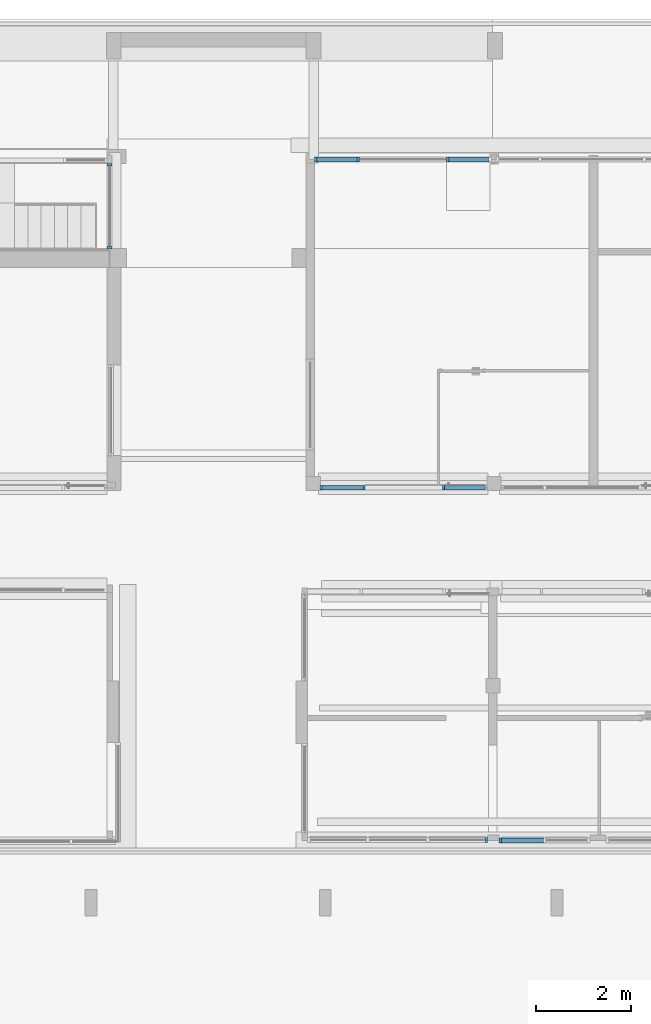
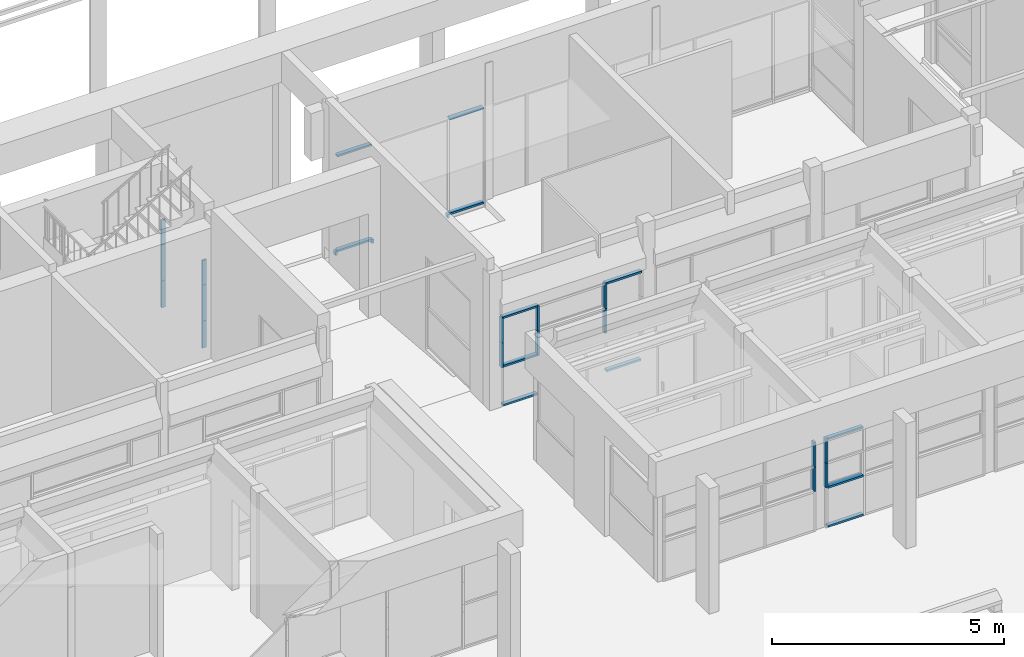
# One storey, part 22 of 117: 31 members, 5 elements without a shape of their own.
"""IFC4 building model written with IfcOpenShell, lengths in metres."""

from ifc_helpers import new_model, entity, si_unit, converted_unit, derived_unit, direction, frame, origin, place, context, subcontext, project, spatial, indexed_curve, outline, extrude, source, transform, mapped, material, type_object, type_shapes, element, aggregate, save


model = new_model("IFC4")

# Units and contexts
model_context = context("Model", 3, precision=1e-05, world=origin(), true_north=direction((6.123031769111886e-17, 1.0)))
body_context = subcontext(model_context, "Body", "Model", "MODEL_VIEW")
ifc_project = project(units=[si_unit("LENGTHUNIT", "METRE"), si_unit("AREAUNIT", "SQUARE_METRE"), si_unit("VOLUMEUNIT", "CUBIC_METRE"), converted_unit("PLANEANGLEUNIT", "DEGREE", entity("IfcRatioMeasure", 0.017453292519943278), si_unit("PLANEANGLEUNIT", "RADIAN"), dimensions=[0, 0, 0, 0, 0, 0, 0]), si_unit("MASSUNIT", "GRAM", prefix="KILO"), derived_unit("MASSDENSITYUNIT", [(si_unit("MASSUNIT", "GRAM", prefix="KILO"), 1), (si_unit("LENGTHUNIT", "METRE"), -3)]), derived_unit("MOMENTOFINERTIAUNIT", [(si_unit("LENGTHUNIT", "METRE"), 4)]), si_unit("TIMEUNIT", "SECOND"), si_unit("FREQUENCYUNIT", "HERTZ"), si_unit("THERMODYNAMICTEMPERATUREUNIT", "DEGREE_CELSIUS"), derived_unit("THERMALTRANSMITTANCEUNIT", [(si_unit("MASSUNIT", "GRAM", prefix="KILO"), 1), (si_unit("THERMODYNAMICTEMPERATUREUNIT", "KELVIN"), -1), (si_unit("TIMEUNIT", "SECOND"), -3)]), derived_unit("VOLUMETRICFLOWRATEUNIT", [(si_unit("LENGTHUNIT", "METRE"), 3), (si_unit("TIMEUNIT", "SECOND"), -1)]), derived_unit("MASSFLOWRATEUNIT", [(si_unit("MASSUNIT", "GRAM", prefix="KILO"), 1), (si_unit("TIMEUNIT", "SECOND"), -1)]), derived_unit("ROTATIONALFREQUENCYUNIT", [(si_unit("TIMEUNIT", "SECOND"), -1)]), si_unit("ELECTRICCURRENTUNIT", "AMPERE"), si_unit("ELECTRICVOLTAGEUNIT", "VOLT"), si_unit("POWERUNIT", "WATT"), si_unit("FORCEUNIT", "NEWTON", prefix="KILO"), si_unit("ILLUMINANCEUNIT", "LUX"), si_unit("LUMINOUSFLUXUNIT", "LUMEN"), si_unit("LUMINOUSINTENSITYUNIT", "CANDELA"), derived_unit("USERDEFINED", [(si_unit("MASSUNIT", "GRAM", prefix="KILO"), -1), (si_unit("LENGTHUNIT", "METRE"), -2), (si_unit("TIMEUNIT", "SECOND"), 3), (si_unit("LUMINOUSFLUXUNIT", "LUMEN"), 1)]), derived_unit("SOUNDPOWERUNIT", [(si_unit("MASSUNIT", "GRAM", prefix="KILO"), 1), (si_unit("LENGTHUNIT", "METRE"), 2), (si_unit("TIMEUNIT", "SECOND"), -3)]), derived_unit("SOUNDPRESSUREUNIT", [(si_unit("MASSUNIT", "GRAM", prefix="KILO"), 1), (si_unit("LENGTHUNIT", "METRE"), -1), (si_unit("TIMEUNIT", "SECOND"), -2)]), derived_unit("LINEARVELOCITYUNIT", [(si_unit("LENGTHUNIT", "METRE"), 1), (si_unit("TIMEUNIT", "SECOND"), -1)]), si_unit("PRESSUREUNIT", "PASCAL"), derived_unit("USERDEFINED", [(si_unit("LENGTHUNIT", "METRE"), -2), (si_unit("MASSUNIT", "GRAM", prefix="KILO"), 1), (si_unit("TIMEUNIT", "SECOND"), -2)]), derived_unit("LINEARFORCEUNIT", [(si_unit("MASSUNIT", "GRAM", prefix="KILO"), 1), (si_unit("LENGTHUNIT", "METRE"), 1), (si_unit("TIMEUNIT", "SECOND"), -2), (si_unit("LENGTHUNIT", "METRE"), -1)]), derived_unit("PLANARFORCEUNIT", [(si_unit("MASSUNIT", "GRAM", prefix="KILO"), 1), (si_unit("LENGTHUNIT", "METRE"), 1), (si_unit("TIMEUNIT", "SECOND"), -2), (si_unit("LENGTHUNIT", "METRE"), -2)])], contexts=[model_context])

# Site, building, storey
site_placement = place(None, origin())
site = spatial("IfcSite", under=ifc_project, at=site_placement, Name="Superficie", CompositionType="ELEMENT")
building_placement = place(site_placement, origin())
building = spatial("IfcBuilding", under=site, at=building_placement, CompositionType="ELEMENT")
storey_placement = place(building_placement, origin())
storey = spatial("IfcBuildingStorey", under=building, at=storey_placement, Name="Nivel 0", CompositionType="ELEMENT", Elevation=0.0)

# Curtain wall, members
curtain_wall_type = type_object("IfcCurtainWallType", Name="Muro cortina:Muro cortina - simple", PredefinedType="NOTDEFINED")
curtain_wall_1_placement = place(storey_placement, origin())
curtain_wall_1 = element("IfcCurtainWall", 1, at=curtain_wall_1_placement, inside=storey, type_object=curtain_wall_type, Name="Muro cortina:Muro cortina - simple", ObjectType="Muro cortina:Muro cortina - simple", PredefinedType="NOTDEFINED")
ifc_material = material(Name="<Unnamed>")
member_type_1 = type_object("IfcMemberType", Name="Montante rectangular:Montante rectangular - 5 x 10 cm", PredefinedType="MULLION", material=ifc_material)
shared_shape_1 = source(origin(), body_context, "Body", "SweptSolid", [
    extrude(outline(indexed_curve([(-0.05, -0.025), (0.05, -0.025), (0.05, 0.025), (-0.05, 0.025), (-0.05, -0.025)], self_intersect=False)), frame((-0.025, 0.0, -0.8500000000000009), z_axis=(0.0, 0.0, 1.0), x_axis=(0.0, -1.0, 0.0)), (0.0, 0.0, 1.0), 0.849999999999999),
])
type_shapes(member_type_1, [shared_shape_1])
member_1_placement = place(curtain_wall_1_placement, frame((3.7765520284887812, 12.65454840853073, 2.44), z_axis=(-1.0, 0.0, 0.0), x_axis=(0.0, 0.0, 1.0)))
member_1 = element("IfcMember", 2, at=member_1_placement, type_object=member_type_1, material=ifc_material, Name="Montante rectangular:Montante rectangular - 5 x 10 cm", ObjectType="Montante rectangular:Montante rectangular - 5 x 10 cm", PredefinedType="MULLION", context=body_context, shape_type="MappedRepresentation", body=[
    mapped(shared_shape_1, transform((0.0, 0.0, 0.0), scale=1.0)),
])
member_2_placement = place(curtain_wall_1_placement, frame((0.9865520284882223, 12.654548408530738, 2.44), z_axis=(-1.0, 0.0, 0.0), x_axis=(0.0, 0.0, 1.0)))
member_2 = element("IfcMember", 3, at=member_2_placement, type_object=member_type_1, material=ifc_material, Name="Montante rectangular:Montante rectangular - 5 x 10 cm", ObjectType="Montante rectangular:Montante rectangular - 5 x 10 cm", PredefinedType="MULLION", context=body_context, shape_type="MappedRepresentation", body=[
    mapped(shared_shape_1, transform((0.0, 0.0, 0.0), scale=1.0)),
])

curtain_wall_2_placement = place(storey_placement, origin())
curtain_wall_2 = element("IfcCurtainWall", 4, at=curtain_wall_2_placement, inside=storey, type_object=curtain_wall_type, Name="Muro cortina:Muro cortina - simple", ObjectType="Muro cortina:Muro cortina - simple", PredefinedType="NOTDEFINED")
member_type_2 = type_object("IfcMemberType", Name="Montante rectangular:Montante rectangular - 5 x 10 cm", PredefinedType="MULLION", material=ifc_material)
shared_shape_2 = source(origin(), body_context, "Body", "SweptSolid", [
    extrude(outline(indexed_curve([(-0.05, -0.025), (0.05, -0.025), (0.05, 0.025), (-0.05, 0.025), (-0.05, -0.025)], self_intersect=False)), frame((0.0, 0.0, -0.8500000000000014), z_axis=(0.0, 0.0, 1.0), x_axis=(0.0, -1.0, 0.0)), (0.0, 0.0, 1.0), 0.849999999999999),
])
type_shapes(member_type_2, [shared_shape_2])
member_3_placement = place(curtain_wall_2_placement, frame((1.956552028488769, 5.716739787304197, 0.019999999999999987), z_axis=(1.0, 0.0, 0.0), x_axis=(0.0, 0.0, 1.0)))
member_3 = element("IfcMember", 5, at=member_3_placement, type_object=member_type_2, material=ifc_material, Name="Montante rectangular:Montante rectangular - 5 x 10 cm", ObjectType="Montante rectangular:Montante rectangular - 5 x 10 cm", PredefinedType="MULLION", context=body_context, shape_type="MappedRepresentation", body=[
    mapped(shared_shape_2, transform((0.0, 0.0, 0.0), scale=1.0)),
])
member_4_placement = place(curtain_wall_2_placement, frame((4.53655202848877, 5.7167397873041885, 0.019999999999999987), z_axis=(1.0, 0.0, 0.0), x_axis=(0.0, 0.0, 1.0)))
member_4 = element("IfcMember", 6, at=member_4_placement, type_object=member_type_2, material=ifc_material, Name="Montante rectangular:Montante rectangular - 5 x 10 cm", ObjectType="Montante rectangular:Montante rectangular - 5 x 10 cm", PredefinedType="MULLION", context=body_context, shape_type="MappedRepresentation", body=[
    mapped(shared_shape_2, transform((0.0, 0.0, 0.0), scale=1.0)),
])

# Member
member_5_placement = place(curtain_wall_1_placement, frame((3.7765520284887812, 12.65454840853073, -0.08647709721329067), z_axis=(-1.0, 0.0, 0.0), x_axis=(0.0, 0.0, 1.0)))
member_5 = element("IfcMember", 7, at=member_5_placement, type_object=member_type_2, material=ifc_material, Name="Montante rectangular:Montante rectangular - 5 x 10 cm", ObjectType="Montante rectangular:Montante rectangular - 5 x 10 cm", PredefinedType="MULLION", context=body_context, shape_type="MappedRepresentation", body=[
    mapped(shared_shape_2, transform((0.0, 0.0, 0.0), scale=1.0)),
])

member_6_placement = place(curtain_wall_1_placement, frame((0.9865520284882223, 12.654548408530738, -0.08647709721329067), z_axis=(-1.0, 0.0, 0.0), x_axis=(0.0, 0.0, 1.0)))
member_6 = element("IfcMember", 8, at=member_6_placement, type_object=member_type_2, material=ifc_material, Name="Montante rectangular:Montante rectangular - 5 x 10 cm", ObjectType="Montante rectangular:Montante rectangular - 5 x 10 cm", PredefinedType="MULLION", context=body_context, shape_type="MappedRepresentation", body=[
    mapped(shared_shape_2, transform((0.0, 0.0, 0.0), scale=1.0)),
])

member_type_3 = type_object("IfcMemberType", Name="Montante rectangular:Montante rectangular - 5 x 10 cm", PredefinedType="MULLION", material=ifc_material)
shared_shape_3 = source(origin(), body_context, "Body", "SweptSolid", [
    extrude(outline(indexed_curve([(-0.05, -0.025), (0.05, -0.025), (0.05, 0.025), (-0.05, 0.025), (-0.05, -0.025)], self_intersect=False)), frame((0.0, 0.0, -0.8500000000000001), z_axis=(0.0, 0.0, 1.0), x_axis=(0.0, -1.0, 0.0)), (0.0, 0.0, 1.0), 0.8500000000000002),
])
type_shapes(member_type_3, [shared_shape_3])
member_7_placement = place(curtain_wall_2_placement, frame((1.956552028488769, 5.716739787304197, 1.0450000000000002), z_axis=(1.0, 0.0, 0.0), x_axis=(0.0, 0.0, 1.0)))
member_7 = element("IfcMember", 9, at=member_7_placement, type_object=member_type_3, material=ifc_material, Name="Montante rectangular:Montante rectangular - 5 x 10 cm", ObjectType="Montante rectangular:Montante rectangular - 5 x 10 cm", PredefinedType="MULLION", context=body_context, shape_type="MappedRepresentation", body=[
    mapped(shared_shape_3, transform((0.0, 0.0, 0.0), scale=1.0)),
])

member_type_4 = type_object("IfcMemberType", Name="Montante rectangular:Montante rectangular - 5 x 10 cm", PredefinedType="MULLION", material=ifc_material)
shared_shape_4 = source(origin(), body_context, "Body", "SweptSolid", [
    extrude(outline(indexed_curve([(-0.05, -0.025), (0.05, -0.025), (0.05, 0.025), (-0.05, 0.025), (-0.05, -0.025)], self_intersect=False)), frame((-0.025, 0.0, -0.9000000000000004), z_axis=(0.0, 0.0, 1.0), x_axis=(0.0, -1.0, 0.0)), (0.0, 0.0, 1.0), 0.9),
])
type_shapes(member_type_4, [shared_shape_4])
member_8_placement = place(curtain_wall_2_placement, frame((4.56155202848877, 5.7167397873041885, 2.35), z_axis=(1.0, 0.0, 0.0), x_axis=(0.0, 0.0, 1.0)))
member_8 = element("IfcMember", 10, at=member_8_placement, type_object=member_type_4, material=ifc_material, Name="Montante rectangular:Montante rectangular - 5 x 10 cm", ObjectType="Montante rectangular:Montante rectangular - 5 x 10 cm", PredefinedType="MULLION", context=body_context, shape_type="MappedRepresentation", body=[
    mapped(shared_shape_4, transform((0.0, 0.0, 0.0), scale=1.0)),
])

member_type_5 = type_object("IfcMemberType", Name="Montante rectangular:Montante rectangular - 5 x 10 cm", PredefinedType="MULLION", material=ifc_material)
shared_shape_5 = source(origin(), body_context, "Body", "SweptSolid", [
    extrude(outline(indexed_curve([(-0.05, -0.025), (0.05, -0.025), (0.05, 0.025), (-0.05, 0.025), (-0.05, -0.025)], self_intersect=False)), frame((-0.025, 0.0, -0.8999999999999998), z_axis=(0.0, 0.0, 1.0), x_axis=(0.0, -1.0, 0.0)), (0.0, 0.0, 1.0), 0.8999999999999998),
])
type_shapes(member_type_5, [shared_shape_5])
member_9_placement = place(curtain_wall_2_placement, frame((1.9815520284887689, 5.716739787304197, 2.35), z_axis=(1.0, 0.0, 0.0), x_axis=(0.0, 0.0, 1.0)))
member_9 = element("IfcMember", 11, at=member_9_placement, type_object=member_type_5, material=ifc_material, Name="Montante rectangular:Montante rectangular - 5 x 10 cm", ObjectType="Montante rectangular:Montante rectangular - 5 x 10 cm", PredefinedType="MULLION", context=body_context, shape_type="MappedRepresentation", body=[
    mapped(shared_shape_5, transform((0.0, 0.0, 0.0), scale=1.0)),
])

member_type_6 = type_object("IfcMemberType", Name="Montante rectangular:Montante rectangular - 5 x 10 cm", PredefinedType="MULLION", material=ifc_material)
shared_shape_6 = source(origin(), body_context, "Body", "SweptSolid", [
    extrude(outline(indexed_curve([(-0.05, -0.025), (0.05, -0.025), (0.05, 0.025), (-0.05, 0.025), (-0.05, -0.025)], self_intersect=False)), frame((0.0, 0.0, -0.655), z_axis=(0.0, 0.0, 1.0), x_axis=(0.0, -1.0, 0.0)), (0.0, 0.0, 1.0), 0.655),
])
type_shapes(member_type_6, [shared_shape_6])
member_10_placement = place(curtain_wall_2_placement, frame((1.081552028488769, 5.7167397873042, 1.0199999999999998), z_axis=(0.0, 0.0, -1.0), x_axis=(1.0, 0.0, 0.0)))
member_10 = element("IfcMember", 12, at=member_10_placement, type_object=member_type_6, material=ifc_material, Name="Montante rectangular:Montante rectangular - 5 x 10 cm", ObjectType="Montante rectangular:Montante rectangular - 5 x 10 cm", PredefinedType="MULLION", context=body_context, shape_type="MappedRepresentation", body=[
    mapped(shared_shape_6, transform((0.0, 0.0, 0.0), scale=1.0)),
])

member_type_7 = type_object("IfcMemberType", Name="Montante rectangular:Montante rectangular - 5 x 10 cm", PredefinedType="MULLION", material=ifc_material)
shared_shape_7 = source(origin(), body_context, "Body", "SweptSolid", [
    extrude(outline(indexed_curve([(-0.05, -0.025), (0.05, -0.025), (0.05, 0.025), (-0.05, 0.025), (-0.05, -0.025)], self_intersect=False)), frame((0.0, 0.0, -0.655), z_axis=(0.0, 0.0, 1.0), x_axis=(0.0, -1.0, 0.0)), (0.0, 0.0, 1.0), 0.655),
])
type_shapes(member_type_7, [shared_shape_7])
member_11_placement = place(curtain_wall_2_placement, frame((1.9815520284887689, 5.716739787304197, 1.0199999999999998), z_axis=(0.0, 0.0, -1.0), x_axis=(1.0, 0.0, 0.0)))
member_11 = element("IfcMember", 13, at=member_11_placement, type_object=member_type_7, material=ifc_material, Name="Montante rectangular:Montante rectangular - 5 x 10 cm", ObjectType="Montante rectangular:Montante rectangular - 5 x 10 cm", PredefinedType="MULLION", context=body_context, shape_type="MappedRepresentation", body=[
    mapped(shared_shape_7, transform((0.0, 0.0, 0.0), scale=1.0)),
])

member_12_placement = place(curtain_wall_2_placement, frame((3.66155202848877, 5.716739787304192, 1.0199999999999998), z_axis=(0.0, 0.0, -1.0), x_axis=(1.0, 0.0, 0.0)))
member_12 = element("IfcMember", 14, at=member_12_placement, type_object=member_type_7, material=ifc_material, Name="Montante rectangular:Montante rectangular - 5 x 10 cm", ObjectType="Montante rectangular:Montante rectangular - 5 x 10 cm", PredefinedType="MULLION", context=body_context, shape_type="MappedRepresentation", body=[
    mapped(shared_shape_7, transform((0.0, 0.0, 0.0), scale=1.0)),
])

member_type_8 = type_object("IfcMemberType", Name="Montante rectangular:Montante rectangular - 5 x 10 cm", PredefinedType="MULLION", material=ifc_material)
shared_shape_8 = source(origin(), body_context, "Body", "SweptSolid", [
    extrude(outline(indexed_curve([(-0.05, -0.025), (0.05, -0.025), (0.05, 0.025), (-0.05, 0.025), (-0.05, -0.025)], self_intersect=False)), frame((0.0, 0.0, -0.655), z_axis=(0.0, 0.0, 1.0), x_axis=(0.0, -1.0, 0.0)), (0.0, 0.0, 1.0), 0.655),
])
type_shapes(member_type_8, [shared_shape_8])
member_13_placement = place(curtain_wall_2_placement, frame((1.081552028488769, 5.7167397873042, 1.6749999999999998), z_axis=(0.0, 0.0, -1.0), x_axis=(1.0, 0.0, 0.0)))
member_13 = element("IfcMember", 15, at=member_13_placement, type_object=member_type_8, material=ifc_material, Name="Montante rectangular:Montante rectangular - 5 x 10 cm", ObjectType="Montante rectangular:Montante rectangular - 5 x 10 cm", PredefinedType="MULLION", context=body_context, shape_type="MappedRepresentation", body=[
    mapped(shared_shape_8, transform((0.0, 0.0, 0.0), scale=1.0)),
])

member_type_9 = type_object("IfcMemberType", Name="Montante rectangular:Montante rectangular - 5 x 10 cm", PredefinedType="MULLION", material=ifc_material)
shared_shape_9 = source(origin(), body_context, "Body", "SweptSolid", [
    extrude(outline(indexed_curve([(-0.05, -0.025), (0.05, -0.025), (0.05, 0.025), (-0.05, 0.025), (-0.05, -0.025)], self_intersect=False)), frame((0.0, 0.0, -0.655), z_axis=(0.0, 0.0, 1.0), x_axis=(0.0, -1.0, 0.0)), (0.0, 0.0, 1.0), 0.655),
])
type_shapes(member_type_9, [shared_shape_9])
member_14_placement = place(curtain_wall_2_placement, frame((1.9815520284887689, 5.716739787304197, 1.6749999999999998), z_axis=(0.0, 0.0, -1.0), x_axis=(1.0, 0.0, 0.0)))
member_14 = element("IfcMember", 16, at=member_14_placement, type_object=member_type_9, material=ifc_material, Name="Montante rectangular:Montante rectangular - 5 x 10 cm", ObjectType="Montante rectangular:Montante rectangular - 5 x 10 cm", PredefinedType="MULLION", context=body_context, shape_type="MappedRepresentation", body=[
    mapped(shared_shape_9, transform((0.0, 0.0, 0.0), scale=1.0)),
])

member_15_placement = place(curtain_wall_2_placement, frame((3.66155202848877, 5.716739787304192, 1.6749999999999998), z_axis=(0.0, 0.0, -1.0), x_axis=(1.0, 0.0, 0.0)))
member_15 = element("IfcMember", 17, at=member_15_placement, type_object=member_type_9, material=ifc_material, Name="Montante rectangular:Montante rectangular - 5 x 10 cm", ObjectType="Montante rectangular:Montante rectangular - 5 x 10 cm", PredefinedType="MULLION", context=body_context, shape_type="MappedRepresentation", body=[
    mapped(shared_shape_9, transform((0.0, 0.0, 0.0), scale=1.0)),
])

aggregate(curtain_wall_2, [member_7, member_8, member_3, member_4, member_9, member_10, member_11, member_12, member_13, member_14, member_15])

# Curtain wall, members
curtain_wall_3_placement = place(storey_placement, origin())
curtain_wall_3 = element("IfcCurtainWall", 18, at=curtain_wall_3_placement, inside=storey, type_object=curtain_wall_type, Name="Muro cortina:Muro cortina - simple", ObjectType="Muro cortina:Muro cortina - simple", PredefinedType="NOTDEFINED")
member_type_10 = type_object("IfcMemberType", Name="Montante rectangular:Montante rectangular - 5 x 10 cm", PredefinedType="MULLION", material=ifc_material)
shared_shape_10 = source(origin(), body_context, "Body", "SweptSolid", [
    extrude(outline(indexed_curve([(-0.05, -0.025), (0.05, -0.025), (0.05, 0.025), (-0.05, 0.025), (-0.05, -0.025)], self_intersect=False)), frame((0.0, 0.0, -0.65), z_axis=(0.0, 0.0, 1.0), x_axis=(0.0, -1.0, 0.0)), (0.0, 0.0, 1.0), 0.65),
])
type_shapes(member_type_10, [shared_shape_10])
member_16_placement = place(curtain_wall_3_placement, frame((-3.3932009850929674, 10.790829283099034, 1.6799999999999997), z_axis=(0.0, 0.0, -1.0), x_axis=(0.0, 1.0, 0.0)))
member_16 = element("IfcMember", 19, at=member_16_placement, type_object=member_type_10, material=ifc_material, Name="Montante rectangular:Montante rectangular - 5 x 10 cm", ObjectType="Montante rectangular:Montante rectangular - 5 x 10 cm", PredefinedType="MULLION", context=body_context, shape_type="MappedRepresentation", body=[
    mapped(shared_shape_10, transform((0.0, 0.0, 0.0), scale=1.0)),
])
member_type_11 = type_object("IfcMemberType", Name="Montante rectangular:Montante rectangular - 5 x 10 cm", PredefinedType="MULLION", material=ifc_material)
shared_shape_11 = source(origin(), body_context, "Body", "SweptSolid", [
    extrude(outline(indexed_curve([(-0.05, -0.025), (0.05, -0.025), (0.05, 0.025), (-0.05, 0.025), (-0.05, -0.025)], self_intersect=False)), frame((-0.025, 0.0, -0.65), z_axis=(0.0, 0.0, 1.0), x_axis=(0.0, -1.0, 0.0)), (0.0, 0.0, 1.0), 0.65),
])
type_shapes(member_type_11, [shared_shape_11])
member_17_placement = place(curtain_wall_3_placement, frame((-3.393200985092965, 12.570829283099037, 1.6799999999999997), z_axis=(0.0, 0.0, -1.0), x_axis=(0.0, 1.0, 0.0)))
member_17 = element("IfcMember", 20, at=member_17_placement, type_object=member_type_11, material=ifc_material, Name="Montante rectangular:Montante rectangular - 5 x 10 cm", ObjectType="Montante rectangular:Montante rectangular - 5 x 10 cm", PredefinedType="MULLION", context=body_context, shape_type="MappedRepresentation", body=[
    mapped(shared_shape_11, transform((0.0, 0.0, 0.0), scale=1.0)),
])
member_type_12 = type_object("IfcMemberType", Name="Montante rectangular:Montante rectangular - 5 x 10 cm", PredefinedType="MULLION", material=ifc_material)
shared_shape_12 = source(origin(), body_context, "Body", "SweptSolid", [
    extrude(outline(indexed_curve([(-0.05, -0.025), (0.05, -0.025), (0.05, 0.025), (-0.05, 0.025), (-0.05, -0.025)], self_intersect=False)), frame((0.0, 0.0, -0.95), z_axis=(0.0, 0.0, 1.0), x_axis=(0.0, -1.0, 0.0)), (0.0, 0.0, 1.0), 0.95),
])
type_shapes(member_type_12, [shared_shape_12])
member_18_placement = place(curtain_wall_3_placement, frame((-3.3932009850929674, 10.790829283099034, 0.73), z_axis=(0.0, 0.0, -1.0), x_axis=(0.0, 1.0, 0.0)))
member_18 = element("IfcMember", 21, at=member_18_placement, type_object=member_type_12, material=ifc_material, Name="Montante rectangular:Montante rectangular - 5 x 10 cm", ObjectType="Montante rectangular:Montante rectangular - 5 x 10 cm", PredefinedType="MULLION", context=body_context, shape_type="MappedRepresentation", body=[
    mapped(shared_shape_12, transform((0.0, 0.0, 0.0), scale=1.0)),
])
member_type_13 = type_object("IfcMemberType", Name="Montante rectangular:Montante rectangular - 5 x 10 cm", PredefinedType="MULLION", material=ifc_material)
shared_shape_13 = source(origin(), body_context, "Body", "SweptSolid", [
    extrude(outline(indexed_curve([(-0.05, -0.025), (0.05, -0.025), (0.05, 0.025), (-0.05, 0.025), (-0.05, -0.025)], self_intersect=False)), frame((0.0, 0.0, -0.71), z_axis=(0.0, 0.0, 1.0), x_axis=(0.0, -1.0, 0.0)), (0.0, 0.0, 1.0), 0.71),
])
type_shapes(member_type_13, [shared_shape_13])
member_19_placement = place(curtain_wall_3_placement, frame((-3.3932009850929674, 10.790829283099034, 0.019999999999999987), z_axis=(0.0, 0.0, -1.0), x_axis=(0.0, 1.0, 0.0)))
member_19 = element("IfcMember", 22, at=member_19_placement, type_object=member_type_13, material=ifc_material, Name="Montante rectangular:Montante rectangular - 5 x 10 cm", ObjectType="Montante rectangular:Montante rectangular - 5 x 10 cm", PredefinedType="MULLION", context=body_context, shape_type="MappedRepresentation", body=[
    mapped(shared_shape_13, transform((0.0, 0.0, 0.0), scale=1.0)),
])
member_type_14 = type_object("IfcMemberType", Name="Montante rectangular:Montante rectangular - 5 x 10 cm", PredefinedType="MULLION", material=ifc_material)
shared_shape_14 = source(origin(), body_context, "Body", "SweptSolid", [
    extrude(outline(indexed_curve([(-0.05, -0.025), (0.05, -0.025), (0.05, 0.025), (-0.05, 0.025), (-0.05, -0.025)], self_intersect=False)), frame((-0.025, 0.0, -0.71), z_axis=(0.0, 0.0, 1.0), x_axis=(0.0, -1.0, 0.0)), (0.0, 0.0, 1.0), 0.71),
])
type_shapes(member_type_14, [shared_shape_14])
member_20_placement = place(curtain_wall_3_placement, frame((-3.393200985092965, 12.570829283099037, 0.019999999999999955), z_axis=(0.0, 0.0, -1.0), x_axis=(0.0, 1.0, 0.0)))
member_20 = element("IfcMember", 23, at=member_20_placement, type_object=member_type_14, material=ifc_material, Name="Montante rectangular:Montante rectangular - 5 x 10 cm", ObjectType="Montante rectangular:Montante rectangular - 5 x 10 cm", PredefinedType="MULLION", context=body_context, shape_type="MappedRepresentation", body=[
    mapped(shared_shape_14, transform((0.0, 0.0, 0.0), scale=1.0)),
])
member_type_15 = type_object("IfcMemberType", Name="Montante rectangular:Montante rectangular - 5 x 10 cm", PredefinedType="MULLION", material=ifc_material)
shared_shape_15 = source(origin(), body_context, "Body", "SweptSolid", [
    extrude(outline(indexed_curve([(-0.05, -0.025), (0.05, -0.025), (0.05, 0.025), (-0.05, 0.025), (-0.05, -0.025)], self_intersect=False)), frame((-0.025, 0.0, -0.9499999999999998), z_axis=(0.0, 0.0, 1.0), x_axis=(0.0, -1.0, 0.0)), (0.0, 0.0, 1.0), 0.9499999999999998),
])
type_shapes(member_type_15, [shared_shape_15])
member_21_placement = place(curtain_wall_3_placement, frame((-3.393200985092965, 12.570829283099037, 0.73), z_axis=(0.0, 0.0, -1.0), x_axis=(0.0, 1.0, 0.0)))
member_21 = element("IfcMember", 24, at=member_21_placement, type_object=member_type_15, material=ifc_material, Name="Montante rectangular:Montante rectangular - 5 x 10 cm", ObjectType="Montante rectangular:Montante rectangular - 5 x 10 cm", PredefinedType="MULLION", context=body_context, shape_type="MappedRepresentation", body=[
    mapped(shared_shape_15, transform((0.0, 0.0, 0.0), scale=1.0)),
])
aggregate(curtain_wall_3, [member_19, member_20, member_16, member_17, member_18, member_21])

# Curtain wall, member
curtain_wall_4_placement = place(storey_placement, origin())
curtain_wall_4 = element("IfcCurtainWall", 25, at=curtain_wall_4_placement, inside=storey, type_object=curtain_wall_type, Name="Muro cortina:Muro cortina - simple", ObjectType="Muro cortina:Muro cortina - simple", PredefinedType="NOTDEFINED")
member_type_16 = type_object("IfcMemberType", Name="Montante rectangular:Montante rectangular - 5 x 10 cm", PredefinedType="MULLION", material=ifc_material)
shared_shape_16 = source(origin(), body_context, "Body", "SweptSolid", [
    extrude(outline(indexed_curve([(-0.05, -0.025), (0.05, -0.025), (0.05, 0.025), (-0.05, 0.025), (-0.05, -0.025)], self_intersect=False)), frame((-0.025, 0.0, -0.6500000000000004), z_axis=(0.0, 0.0, 1.0), x_axis=(0.0, -1.0, 0.0)), (0.0, 0.0, 1.0), 0.6500000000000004),
])
type_shapes(member_type_16, [shared_shape_16])
member_22_placement = place(curtain_wall_4_placement, frame((4.596799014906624, -1.7241707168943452, 2.35)))
member_22 = element("IfcMember", 26, at=member_22_placement, type_object=member_type_16, material=ifc_material, Name="Montante rectangular:Montante rectangular - 5 x 10 cm", ObjectType="Montante rectangular:Montante rectangular - 5 x 10 cm", PredefinedType="MULLION", context=body_context, shape_type="MappedRepresentation", body=[
    mapped(shared_shape_16, transform((0.0, 0.0, 0.0), scale=1.0)),
])

curtain_wall_5_placement = place(storey_placement, origin())
curtain_wall_5 = element("IfcCurtainWall", 27, at=curtain_wall_5_placement, inside=storey, type_object=curtain_wall_type, Name="Muro cortina:Muro cortina - simple", ObjectType="Muro cortina:Muro cortina - simple", PredefinedType="NOTDEFINED")
member_23_placement = place(curtain_wall_5_placement, frame((4.8367990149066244, -1.7341707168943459, 2.35), z_axis=(0.0, 0.0, 1.0), x_axis=(-1.0, 0.0, 0.0)))
member_23 = element("IfcMember", 28, at=member_23_placement, type_object=member_type_16, material=ifc_material, Name="Montante rectangular:Montante rectangular - 5 x 10 cm", ObjectType="Montante rectangular:Montante rectangular - 5 x 10 cm", PredefinedType="MULLION", context=body_context, shape_type="MappedRepresentation", body=[
    mapped(shared_shape_16, transform((0.0, 0.0, 0.0), scale=1.0)),
])

# Member
member_type_17 = type_object("IfcMemberType", Name="Montante rectangular:Montante rectangular - 5 x 10 cm", PredefinedType="MULLION", material=ifc_material)
shared_shape_17 = source(origin(), body_context, "Body", "SweptSolid", [
    extrude(outline(indexed_curve([(-0.05, -0.025), (0.05, -0.025), (0.05, 0.025), (-0.05, 0.025), (-0.05, -0.025)], self_intersect=False)), frame((-0.025, 0.0, -0.6499999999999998), z_axis=(0.0, 0.0, 1.0), x_axis=(0.0, -1.0, 0.0)), (0.0, 0.0, 1.0), 0.6499999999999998),
])
type_shapes(member_type_17, [shared_shape_17])
member_24_placement = place(curtain_wall_4_placement, frame((4.596799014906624, -1.7241707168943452, 1.7)))
member_24 = element("IfcMember", 29, at=member_24_placement, type_object=member_type_17, material=ifc_material, Name="Montante rectangular:Montante rectangular - 5 x 10 cm", ObjectType="Montante rectangular:Montante rectangular - 5 x 10 cm", PredefinedType="MULLION", context=body_context, shape_type="MappedRepresentation", body=[
    mapped(shared_shape_17, transform((0.0, 0.0, 0.0), scale=1.0)),
])

aggregate(curtain_wall_4, [member_22, member_24])

member_25_placement = place(curtain_wall_5_placement, frame((4.8367990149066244, -1.7341707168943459, 1.7), z_axis=(0.0, 0.0, 1.0), x_axis=(-1.0, 0.0, 0.0)))
member_25 = element("IfcMember", 30, at=member_25_placement, type_object=member_type_17, material=ifc_material, Name="Montante rectangular:Montante rectangular - 5 x 10 cm", ObjectType="Montante rectangular:Montante rectangular - 5 x 10 cm", PredefinedType="MULLION", context=body_context, shape_type="MappedRepresentation", body=[
    mapped(shared_shape_17, transform((0.0, 0.0, 0.0), scale=1.0)),
])

member_type_18 = type_object("IfcMemberType", Name="Montante rectangular:Montante rectangular - 5 x 10 cm", PredefinedType="MULLION", material=ifc_material)
shared_shape_18 = source(origin(), body_context, "Body", "SweptSolid", [
    extrude(outline(indexed_curve([(-0.05, -0.025), (0.05, -0.025), (0.05, 0.025), (-0.05, 0.025), (-0.05, -0.025)], self_intersect=False)), frame((-0.025, 0.0, -0.885), z_axis=(0.0, 0.0, 1.0), x_axis=(0.0, -1.0, 0.0)), (0.0, 0.0, 1.0), 0.8849999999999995),
])
type_shapes(member_type_18, [shared_shape_18])
member_26_placement = place(curtain_wall_5_placement, frame((5.771799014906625, -1.7341707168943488, 2.3499999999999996), z_axis=(1.0, 0.0, 0.0), x_axis=(0.0, 0.0, 1.0)))
member_26 = element("IfcMember", 31, at=member_26_placement, type_object=member_type_18, material=ifc_material, Name="Montante rectangular:Montante rectangular - 5 x 10 cm", ObjectType="Montante rectangular:Montante rectangular - 5 x 10 cm", PredefinedType="MULLION", context=body_context, shape_type="MappedRepresentation", body=[
    mapped(shared_shape_18, transform((0.0, 0.0, 0.0), scale=1.0)),
])

member_type_19 = type_object("IfcMemberType", Name="Montante rectangular:Montante rectangular - 5 x 10 cm", PredefinedType="MULLION", material=ifc_material)
shared_shape_19 = source(origin(), body_context, "Body", "SweptSolid", [
    extrude(outline(indexed_curve([(-0.05, -0.025), (0.05, -0.025), (0.05, 0.025), (-0.05, 0.025), (-0.05, -0.025)], self_intersect=False)), frame((-0.025, 0.0, -0.885), z_axis=(0.0, 0.0, 1.0), x_axis=(0.0, -1.0, 0.0)), (0.0, 0.0, 1.0), 0.8850000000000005),
])
type_shapes(member_type_19, [shared_shape_19])
member_27_placement = place(curtain_wall_5_placement, frame((4.886799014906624, -1.734170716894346, 0.0), z_axis=(-1.0, 0.0, 0.0), x_axis=(0.0, 0.0, -1.0)))
member_27 = element("IfcMember", 32, at=member_27_placement, type_object=member_type_19, material=ifc_material, Name="Montante rectangular:Montante rectangular - 5 x 10 cm", ObjectType="Montante rectangular:Montante rectangular - 5 x 10 cm", PredefinedType="MULLION", context=body_context, shape_type="MappedRepresentation", body=[
    mapped(shared_shape_19, transform((0.0, 0.0, 0.0), scale=1.0)),
])

member_type_20 = type_object("IfcMemberType", Name="Montante rectangular:Montante rectangular - 5 x 10 cm", PredefinedType="MULLION", material=ifc_material)
shared_shape_20 = source(origin(), body_context, "Body", "SweptSolid", [
    extrude(outline(indexed_curve([(-0.05, -0.025), (0.05, -0.025), (0.05, 0.025), (-0.05, 0.025), (-0.05, -0.025)], self_intersect=False)), frame((0.0, 0.0, -0.8849999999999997), z_axis=(0.0, 0.0, 1.0), x_axis=(0.0, -1.0, 0.0)), (0.0, 0.0, 1.0), 0.8849999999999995),
])
type_shapes(member_type_20, [shared_shape_20])
member_28_placement = place(curtain_wall_5_placement, frame((5.771799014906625, -1.7341707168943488, 1.05), z_axis=(1.0, 0.0, 0.0), x_axis=(0.0, 0.0, 1.0)))
member_28 = element("IfcMember", 33, at=member_28_placement, type_object=member_type_20, material=ifc_material, Name="Montante rectangular:Montante rectangular - 5 x 10 cm", ObjectType="Montante rectangular:Montante rectangular - 5 x 10 cm", PredefinedType="MULLION", context=body_context, shape_type="MappedRepresentation", body=[
    mapped(shared_shape_20, transform((0.0, 0.0, 0.0), scale=1.0)),
])

aggregate(curtain_wall_5, [member_23, member_27, member_26, member_28, member_25])

member_type_21 = type_object("IfcMemberType", Name="Montante rectangular:Montante rectangular - 5 x 10 cm", PredefinedType="MULLION", material=ifc_material)
shared_shape_21 = source(origin(), body_context, "Body", "SweptSolid", [
    extrude(outline(indexed_curve([(-0.05, -0.025), (0.05, -0.025), (0.05, 0.025), (-0.05, 0.025), (-0.05, -0.025)], self_intersect=False)), frame((0.0, 0.0, -0.10097316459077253), z_axis=(0.0, 0.0, 1.0), x_axis=(0.0, -1.0, 0.0)), (0.0, 0.0, 1.0), 0.10097316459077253),
])
type_shapes(member_type_21, [shared_shape_21])
member_29_placement = place(curtain_wall_1_placement, frame((3.7515520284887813, 12.65454840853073, -0.1874502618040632), z_axis=(0.0, 0.0, -1.0), x_axis=(-1.0, 0.0, 0.0)))
member_29 = element("IfcMember", 34, at=member_29_placement, type_object=member_type_21, material=ifc_material, Name="Montante rectangular:Montante rectangular - 5 x 10 cm", ObjectType="Montante rectangular:Montante rectangular - 5 x 10 cm", PredefinedType="MULLION", context=body_context, shape_type="MappedRepresentation", body=[
    mapped(shared_shape_21, transform((0.0, 0.0, 0.0), scale=1.0)),
])

member_30_placement = place(curtain_wall_1_placement, frame((0.9615520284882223, 12.654548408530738, -0.1874502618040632), z_axis=(0.0, 0.0, -1.0), x_axis=(-1.0, 0.0, 0.0)))
member_30 = element("IfcMember", 35, at=member_30_placement, type_object=member_type_21, material=ifc_material, Name="Montante rectangular:Montante rectangular - 5 x 10 cm", ObjectType="Montante rectangular:Montante rectangular - 5 x 10 cm", PredefinedType="MULLION", context=body_context, shape_type="MappedRepresentation", body=[
    mapped(shared_shape_21, transform((0.0, 0.0, 0.0), scale=1.0)),
])

member_31_placement = place(curtain_wall_1_placement, frame((1.8615520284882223, 12.654548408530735, -0.1874502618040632), z_axis=(0.0, 0.0, -1.0), x_axis=(-1.0, 0.0, 0.0)))
member_31 = element("IfcMember", 36, at=member_31_placement, type_object=member_type_21, material=ifc_material, Name="Montante rectangular:Montante rectangular - 5 x 10 cm", ObjectType="Montante rectangular:Montante rectangular - 5 x 10 cm", PredefinedType="MULLION", context=body_context, shape_type="MappedRepresentation", body=[
    mapped(shared_shape_21, transform((0.0, 0.0, 0.0), scale=1.0)),
])

aggregate(curtain_wall_1, [member_5, member_1, member_29, member_2, member_30, member_6, member_31])

save(model, "model.ifc")
